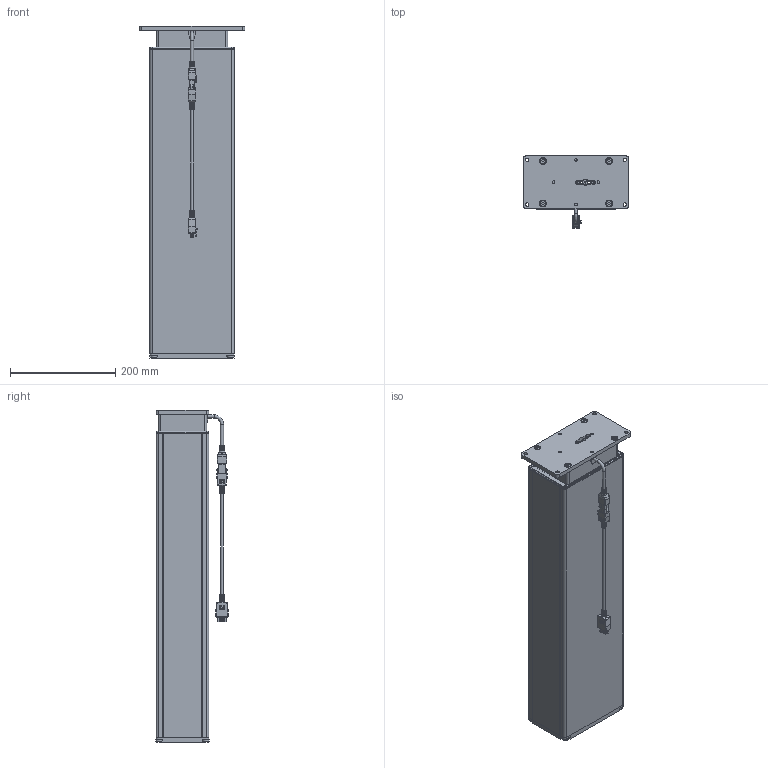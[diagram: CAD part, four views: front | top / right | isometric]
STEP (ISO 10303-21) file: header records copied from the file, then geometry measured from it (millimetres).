
FILE_DESCRIPTION(/* description */ ('Unknown'),/* implementation_level */ '2;1');
FILE_NAME(/* name */ '911.00014_01-eingefahren',/* time_stamp */ '2026-03-27T08:13:12+01:00',/* author */ ('Unknown'),/* organization */ ('Unknown'),/* preprocessor_version */ 'ST-DEVELOPER v20',/* originating_system */ 'Solid Edge',/* authorisation */ 'Unknown');
FILE_SCHEMA (('AUTOMOTIVE_DESIGN {1 0 10303 214 3 1 1}'));
Products named in the file (14): 911.00014; 126.00191; 119.00587; 119.00576; 126.00193; 142.00303; 142.00342; 142.00241; 142.00154; 142.00039; 128.00078; Kabel Motor Sx; 124.00151; 119.00575
Assembly tree (23 placements, depth 2):
  911.00014
    126.00191
    119.00587  x2
    119.00576  x2
    126.00193
    142.00303  x4
    142.00342
    142.00241  x2
    142.00154  x4
    142.00039  x2
    128.00078
    Kabel Motor Sx
    124.00151
    119.00575
Bounding box: 200 x 137.17 x 630 mm (x, y, z)
Volume: 2867839.5 mm3; surface area: 1529392.5 mm2
Topology: 23 solids, 23 shells, 1693 faces, 4416 edges, 2892 vertices
Faces by surface type: plane 1024, cylinder 452, torus 110, bspline 72, cone 29, sphere 6
Full cylindrical faces by diameter (mm): 1.5 x6, 1.82 x6, 2 x4, 2.7 x6, 4 x2, 4.917 x4, 5 x4, 5.5 x2, 6 x11, 6.2 x4, 6.5 x4, 6.6 x4, 6.647 x4, 7 x2, 10 x3, 12 x4, 21 x1
Entity records: 57960 total; most frequent: CARTESIAN_POINT 11650, ORIENTED_EDGE 7756, DIRECTION 7726, EDGE_CURVE 3878, AXIS2_PLACEMENT_3D 2634, VERTEX_POINT 2598, LINE 2458, VECTOR 2458
